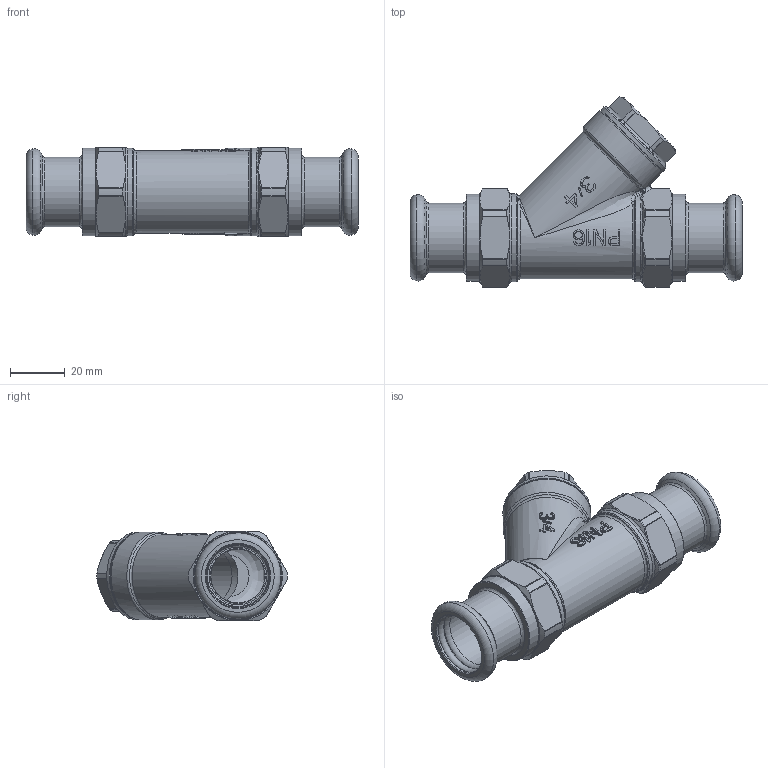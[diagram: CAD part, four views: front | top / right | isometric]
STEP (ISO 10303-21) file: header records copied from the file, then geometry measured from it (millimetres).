
FILE_DESCRIPTION((''),'2;1');
FILE_NAME('P:\Fastrack\53972_CRANE 3D\Press Fit\FIG_817-PF\Fig817-PF_22MM\Fig817-PF_22MM.stp','2012-02-08T14:38:06',('dcole'),(''),'Autodesk Inventor 2008','Autodesk Inventor 2008','');
FILE_SCHEMA(('AUTOMOTIVE_DESIGN { 1 0 10303 214 1 1 1 1 }'));
Length unit declared in the file: millimetre
Products named in the file (1): Fig817-PF_22MM
Bounding box: 121 x 69.41 x 32.5 mm (x, y, z)
Volume: 46443.8 mm3; surface area: 36412.3 mm2
Topology: 1 solids, 2 shells, 563 faces, 1402 edges, 870 vertices
Faces by surface type: bspline 198, plane 145, cylinder 106, cone 54, torus 44, sphere 16
Full cylindrical faces by diameter (mm): 1 x2, 18.5 x1, 19 x1, 20.6 x1, 21 x1, 21.2 x1, 21.5 x2, 22 x1, 22.2 x2, 23.2 x2, 24.11 x2, 24.835 x1, 25.2 x2, 25.4 x2, 27 x1, 27.4 x1, 27.45 x2, 31.5 x1, 31.8 x2, 32 x3
Entity records: 24665 total; most frequent: CARTESIAN_POINT 11914, ORIENTED_EDGE 2606, DIRECTION 2320, EDGE_CURVE 1303, AXIS2_PLACEMENT_3D 954, VERTEX_POINT 855, EDGE_LOOP 674, CIRCLE 590
